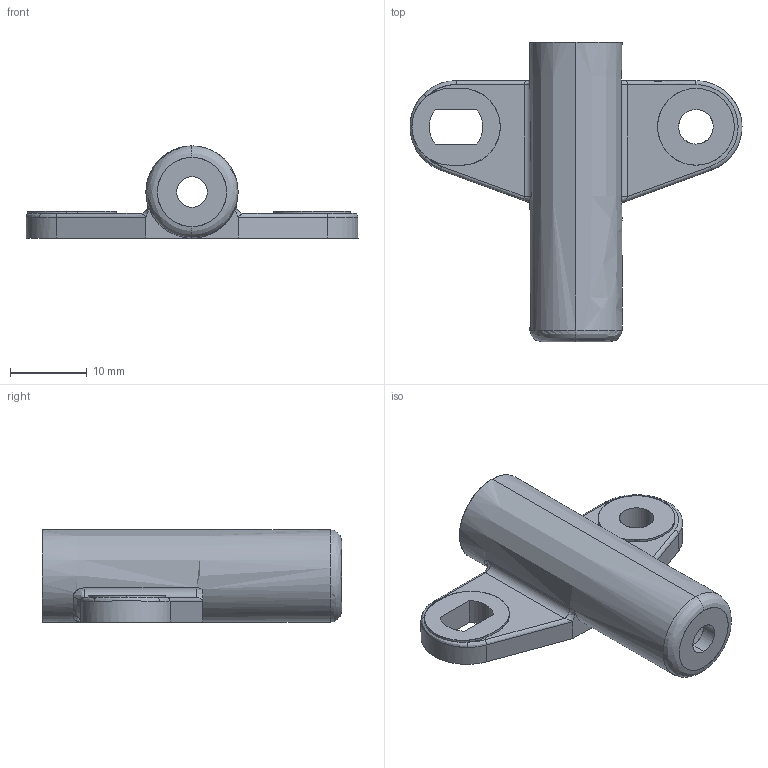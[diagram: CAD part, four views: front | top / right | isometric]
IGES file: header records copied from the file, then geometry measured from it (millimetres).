
Start section: SolidWorks IGES file using analytic representation for surfaces
Bounding box: 43.25 x 39 x 12 mm (x, y, z)
Surface area: 3991.6 mm2 (no closed solid volume)
Topology: 0 solids, 0 shells, 106 faces, 1203 edges, 1189 vertices
Faces by surface type: revolution 59, bspline 47
